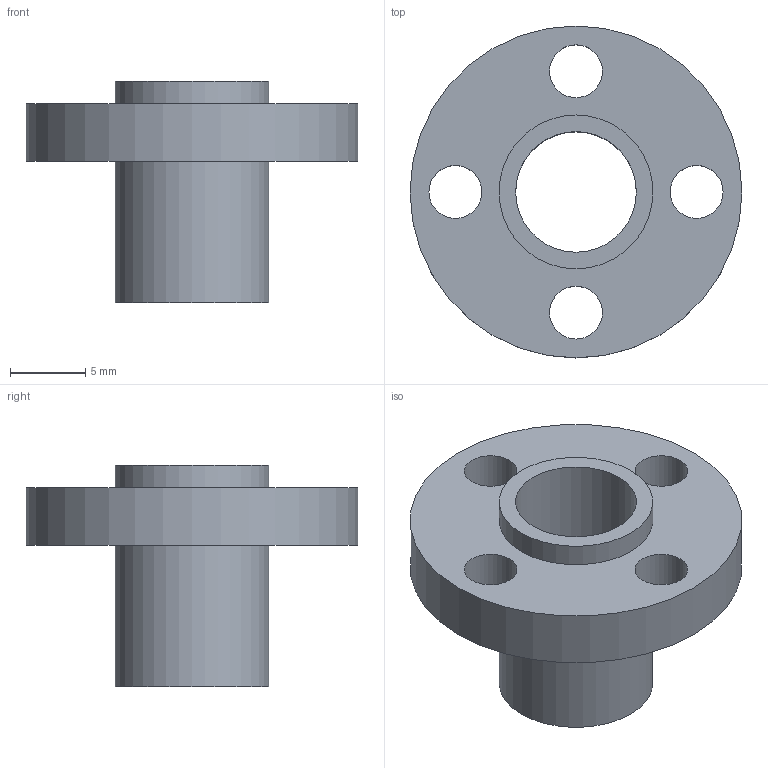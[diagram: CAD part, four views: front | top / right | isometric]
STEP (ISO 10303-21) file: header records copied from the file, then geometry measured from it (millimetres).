
FILE_DESCRIPTION(('FreeCAD Model'),'2;1');
FILE_NAME('Open CASCADE Shape Model','2021-05-04T13:31:28',('Author'),( ''),'Open CASCADE STEP processor 7.5','FreeCAD','Unknown');
FILE_SCHEMA(('AUTOMOTIVE_DESIGN { 1 0 10303 214 1 1 1 1 }'));
Length unit declared in the file: millimetre
Products named in the file (1): T8 nut
Bounding box: 22 x 22 x 14.7 mm (x, y, z)
Volume: 1450 mm3; surface area: 1731.3 mm2
Topology: 1 solids, 1 shells, 12 faces, 26 edges, 18 vertices
Faces by surface type: cylinder 8, plane 4
Full cylindrical faces by diameter (mm): 3.5 x4, 8 x1, 10.2 x2, 22 x1
Entity records: 719 total; most frequent: CARTESIAN_POINT 123, DIRECTION 113, ORIENTED_EDGE 52, PCURVE 52, DEFINITIONAL_REPRESENTATION 52, CIRCLE 35, LINE 34, VECTOR 34
